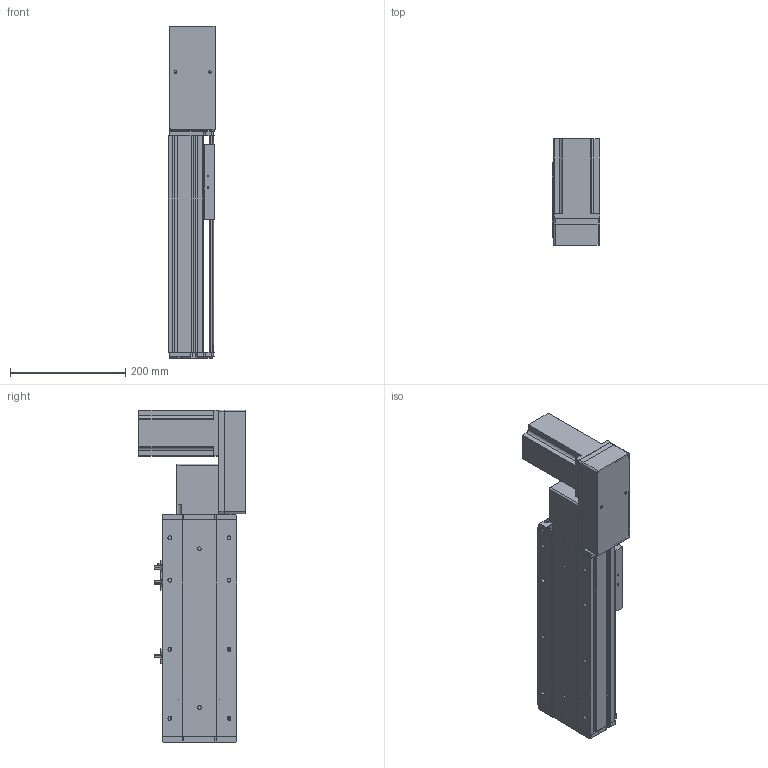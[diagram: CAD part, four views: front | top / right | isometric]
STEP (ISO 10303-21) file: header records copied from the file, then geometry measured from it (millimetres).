
FILE_DESCRIPTION (( 'STEP AP214' ), '1' );
FILE_NAME ('KSD130B-S150-MLB-CM.STEP', '2019-11-14T01:18:40', ( '微软用户' ), ( '微软中国' ), 'SwSTEP 2.0', 'SolidWorks 2014', '' );
FILE_SCHEMA (( 'AUTOMOTIVE_DESIGN' ));
Length unit declared in the file: millimetre
Products named in the file (12): 130宽盖板半封闭同步带-150行程; 130宽马达安装板同步带左-改; 130宽马达安装板同步带半封闭; 130宽同步带安装座半封闭; 130宽端盖同步带半封闭; 130宽底板半封闭同步带-150行程; KSD130B-S150-MLB-CM; 台达ECMA－C20807AS伺服电机; 130宽模组保护罩上下左右折-同步带; 130宽模组马达安装板连板左右折同步带; 覜茼え100遵圉猾敕; U倰嫖萇EEㄜSX672
Assembly tree (13 placements, depth 2):
  KSD130B-S150-MLB-CM
    130宽底板半封闭同步带-150行程
    130宽端盖同步带半封闭
    130宽同步带安装座半封闭
    130宽马达安装板同步带半封闭
    130宽马达安装板同步带左-改
    130宽盖板半封闭同步带-150行程
    U倰嫖萇EEㄜSX672  x3
    覜茼え100遵圉猾敕
    130宽模组马达安装板连板左右折同步带
    130宽模组保护罩上下左右折-同步带
    台达ECMA－C20807AS伺服电机
Bounding box: 82.5 x 184.8 x 577 mm (x, y, z)
Volume: 2694872.2 mm3; surface area: 658215.9 mm2
Topology: 14 solids, 14 shells, 1329 faces, 3701 edges, 2391 vertices
Faces by surface type: cylinder 612, plane 598, cone 119
Entity records: 41647 total; most frequent: CARTESIAN_POINT 7268, DIRECTION 6427, ORIENTED_EDGE 6150, EDGE_CURVE 3075, AXIS2_PLACEMENT_3D 2310, VERTEX_POINT 2015, LINE 1807, VECTOR 1807
